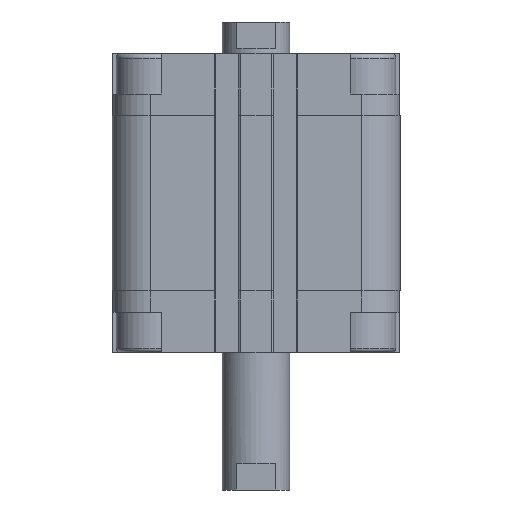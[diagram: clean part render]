
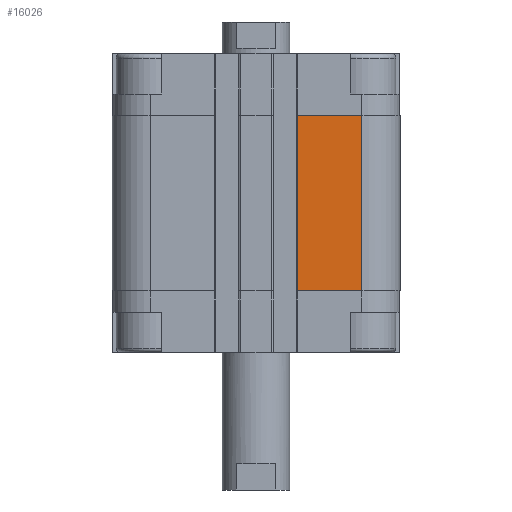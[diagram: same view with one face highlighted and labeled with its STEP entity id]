
A CAD part, front view. The second image highlights one B-rep face of the part: STEP entity #16026.
In plain terms, the highlighted planar face has unit normal (0, -1, 0).
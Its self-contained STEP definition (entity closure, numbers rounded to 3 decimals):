
#1196 = DIRECTION ( 'NONE',  ( -1., 0., 0. ) ) ;
#1642 = CARTESIAN_POINT ( 'NONE',  ( 9.85, -34., -56. ) ) ;
#1889 = AXIS2_PLACEMENT_3D ( 'NONE', #1642, #18908, #1196 ) ;
#2815 = EDGE_LOOP ( 'NONE', ( #20064, #17365, #3946, #8805 ) ) ;
#3069 = VECTOR ( 'NONE', #7719, 1000. ) ;
#3946 = ORIENTED_EDGE ( 'NONE', *, *, #11017, .T. ) ;
#4062 = LINE ( 'NONE', #10833, #19852 ) ;
#4926 = CARTESIAN_POINT ( 'NONE',  ( 25., -34., -14.5 ) ) ;
#5628 = LINE ( 'NONE', #14649, #10424 ) ;
#7599 = VERTEX_POINT ( 'NONE', #8138 ) ;
#7719 = DIRECTION ( 'NONE',  ( 1., 0., 0. ) ) ;
#8138 = CARTESIAN_POINT ( 'NONE',  ( 9.85, -34., -56. ) ) ;
#8805 = ORIENTED_EDGE ( 'NONE', *, *, #13669, .T. ) ;
#9008 = DIRECTION ( 'NONE',  ( 0., 0., 1. ) ) ;
#10355 = CARTESIAN_POINT ( 'NONE',  ( 9.85, -34., -14.5 ) ) ;
#10424 = VECTOR ( 'NONE', #17973, 1000. ) ;
#10833 = CARTESIAN_POINT ( 'NONE',  ( 25., -34., -56. ) ) ;
#11017 = EDGE_CURVE ( 'NONE', #7599, #12745, #16519, .T. ) ;
#11841 = FACE_OUTER_BOUND ( 'NONE', #2815, .T. ) ;
#12641 = VERTEX_POINT ( 'NONE', #16296 ) ;
#12745 = VERTEX_POINT ( 'NONE', #22225 ) ;
#13447 = LINE ( 'NONE', #10355, #17890 ) ;
#13669 = EDGE_CURVE ( 'NONE', #12745, #17987, #4062, .T. ) ;
#13673 = DIRECTION ( 'NONE',  ( 1., 0., 0. ) ) ;
#14649 = CARTESIAN_POINT ( 'NONE',  ( 9.85, -34., -56. ) ) ;
#15360 = PLANE ( 'NONE',  #1889 ) ;
#16026 = ADVANCED_FACE ( 'NONE', ( #11841 ), #15360, .T. ) ;
#16296 = CARTESIAN_POINT ( 'NONE',  ( 9.85, -34., -14.5 ) ) ;
#16519 = LINE ( 'NONE', #17894, #3069 ) ;
#17365 = ORIENTED_EDGE ( 'NONE', *, *, #19269, .F. ) ;
#17890 = VECTOR ( 'NONE', #13673, 1000. ) ;
#17894 = CARTESIAN_POINT ( 'NONE',  ( 9.85, -34., -56. ) ) ;
#17973 = DIRECTION ( 'NONE',  ( 0., 0., 1. ) ) ;
#17987 = VERTEX_POINT ( 'NONE', #4926 ) ;
#18908 = DIRECTION ( 'NONE',  ( 0., -1., 0. ) ) ;
#19269 = EDGE_CURVE ( 'NONE', #7599, #12641, #5628, .T. ) ;
#19852 = VECTOR ( 'NONE', #9008, 1000. ) ;
#20064 = ORIENTED_EDGE ( 'NONE', *, *, #20391, .F. ) ;
#20391 = EDGE_CURVE ( 'NONE', #12641, #17987, #13447, .T. ) ;
#22225 = CARTESIAN_POINT ( 'NONE',  ( 25., -34., -56. ) ) ;
